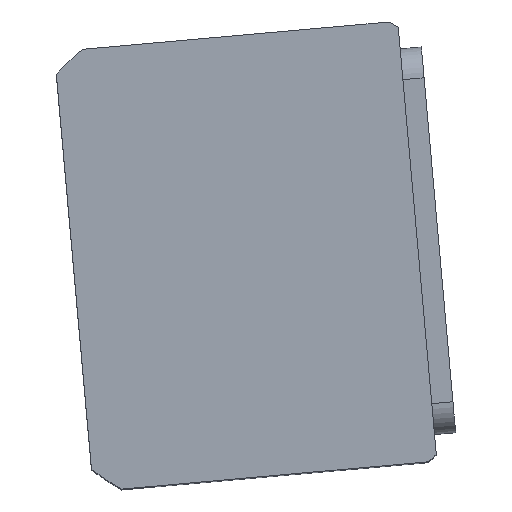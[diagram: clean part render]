
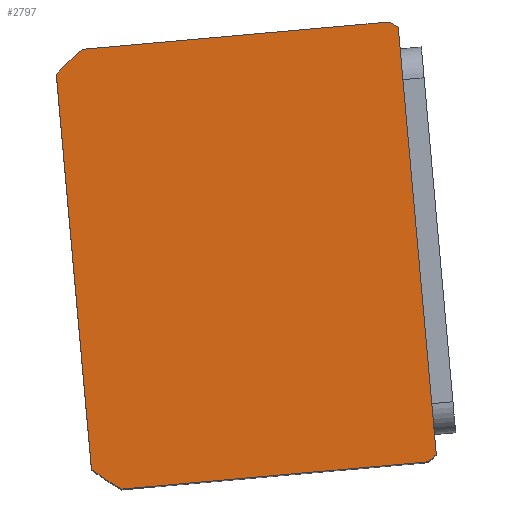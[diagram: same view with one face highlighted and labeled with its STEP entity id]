
A CAD part, top view. The second image highlights one B-rep face of the part: STEP entity #2797.
In plain terms, the highlighted planar face has unit normal (0, 0, 1) as drawn and (0, 0, -1) by its records, which use the part's own axes.
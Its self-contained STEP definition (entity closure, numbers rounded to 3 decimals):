
#589 = CARTESIAN_POINT ( 'NONE',  ( -57., -44.5, 0. ) ) ;
#715 = EDGE_CURVE ( 'NONE', #15470, #19233, #8032, .T. ) ;
#729 = VERTEX_POINT ( 'NONE', #3915 ) ;
#972 = ORIENTED_EDGE ( 'NONE', *, *, #17969, .F. ) ;
#1229 = CARTESIAN_POINT ( 'NONE',  ( -57., -37.265, 0. ) ) ;
#1367 = DIRECTION ( 'NONE',  ( 0., 0., 1. ) ) ;
#1830 = ORIENTED_EDGE ( 'NONE', *, *, #21197, .F. ) ;
#2138 = VECTOR ( 'NONE', #2386, 1000. ) ;
#2386 = DIRECTION ( 'NONE',  ( 1., 0., 0. ) ) ;
#2519 = DIRECTION ( 'NONE',  ( 1., 0., 0. ) ) ;
#2793 = AXIS2_PLACEMENT_3D ( 'NONE', #13537, #2909, #15304 ) ;
#2797 = ADVANCED_FACE ( 'NONE', ( #18814 ), #22454, .F. ) ;
#2909 = DIRECTION ( 'NONE',  ( 0., 0., 1. ) ) ;
#2998 = VERTEX_POINT ( 'NONE', #14290 ) ;
#3809 = CIRCLE ( 'NONE', #22164, 69.5 ) ;
#3810 = VERTEX_POINT ( 'NONE', #8649 ) ;
#3915 = CARTESIAN_POINT ( 'NONE',  ( 57., -37.265, 0. ) ) ;
#4832 = CIRCLE ( 'NONE', #15128, 69.5 ) ;
#5430 = LINE ( 'NONE', #12186, #14299 ) ;
#6307 = EDGE_CURVE ( 'NONE', #10717, #729, #12359, .T. ) ;
#6413 = EDGE_CURVE ( 'NONE', #2998, #21148, #5430, .T. ) ;
#7001 = CARTESIAN_POINT ( 'NONE',  ( 57., 44.5, 0. ) ) ;
#7083 = DIRECTION ( 'NONE',  ( 0., 1., 0. ) ) ;
#7096 = EDGE_LOOP ( 'NONE', ( #1830, #10172, #10946, #972, #13995, #13480, #21754, #11237 ) ) ;
#7104 = AXIS2_PLACEMENT_3D ( 'NONE', #13149, #9724, #2519 ) ;
#7225 = DIRECTION ( 'NONE',  ( -1., 0., 0. ) ) ;
#7773 = CARTESIAN_POINT ( 'NONE',  ( -55.374, 44.5, 0. ) ) ;
#8032 = LINE ( 'NONE', #17933, #12744 ) ;
#8053 = AXIS2_PLACEMENT_3D ( 'NONE', #10200, #22576, #11982 ) ;
#8649 = CARTESIAN_POINT ( 'NONE',  ( 57., 42.265, 0. ) ) ;
#8790 = DIRECTION ( 'NONE',  ( 0., -1., 0. ) ) ;
#8815 = DIRECTION ( 'NONE',  ( 0., 0., 1. ) ) ;
#9724 = DIRECTION ( 'NONE',  ( 0., 0., 1. ) ) ;
#10172 = ORIENTED_EDGE ( 'NONE', *, *, #15082, .F. ) ;
#10200 = CARTESIAN_POINT ( 'NONE',  ( 0., 2.5, 0. ) ) ;
#10717 = VERTEX_POINT ( 'NONE', #18103 ) ;
#10946 = ORIENTED_EDGE ( 'NONE', *, *, #6307, .F. ) ;
#11178 = VECTOR ( 'NONE', #7083, 1000. ) ;
#11237 = ORIENTED_EDGE ( 'NONE', *, *, #715, .F. ) ;
#11729 = LINE ( 'NONE', #7001, #11178 ) ;
#11982 = DIRECTION ( 'NONE',  ( 1., 0., 0. ) ) ;
#11994 = CARTESIAN_POINT ( 'NONE',  ( 0., 2.5, 0. ) ) ;
#12186 = CARTESIAN_POINT ( 'NONE',  ( -57., 44.5, 0. ) ) ;
#12359 = CIRCLE ( 'NONE', #8053, 69.5 ) ;
#12427 = CARTESIAN_POINT ( 'NONE',  ( -51.198, -44.5, 0. ) ) ;
#12744 = VECTOR ( 'NONE', #7225, 1000. ) ;
#13149 = CARTESIAN_POINT ( 'NONE',  ( 0., 0., 0. ) ) ;
#13480 = ORIENTED_EDGE ( 'NONE', *, *, #6413, .F. ) ;
#13537 = CARTESIAN_POINT ( 'NONE',  ( 0., 2.5, 0. ) ) ;
#13788 = DIRECTION ( 'NONE',  ( 1., 0., 0. ) ) ;
#13995 = ORIENTED_EDGE ( 'NONE', *, *, #14380, .F. ) ;
#14290 = CARTESIAN_POINT ( 'NONE',  ( -57., 42.265, 0. ) ) ;
#14299 = VECTOR ( 'NONE', #8790, 1000. ) ;
#14335 = VERTEX_POINT ( 'NONE', #12427 ) ;
#14380 = EDGE_CURVE ( 'NONE', #21148, #14335, #15619, .T. ) ;
#14780 = CARTESIAN_POINT ( 'NONE',  ( 55.374, 44.5, 0. ) ) ;
#15082 = EDGE_CURVE ( 'NONE', #729, #3810, #11729, .T. ) ;
#15128 = AXIS2_PLACEMENT_3D ( 'NONE', #11994, #1367, #13788 ) ;
#15304 = DIRECTION ( 'NONE',  ( 1., 0., 0. ) ) ;
#15470 = VERTEX_POINT ( 'NONE', #14780 ) ;
#15619 = CIRCLE ( 'NONE', #2793, 69.5 ) ;
#15715 = LINE ( 'NONE', #589, #2138 ) ;
#17631 = EDGE_CURVE ( 'NONE', #19233, #2998, #3809, .T. ) ;
#17933 = CARTESIAN_POINT ( 'NONE',  ( -57., 44.5, 0. ) ) ;
#17969 = EDGE_CURVE ( 'NONE', #14335, #10717, #15715, .T. ) ;
#18103 = CARTESIAN_POINT ( 'NONE',  ( 51.198, -44.5, 0. ) ) ;
#18814 = FACE_OUTER_BOUND ( 'NONE', #7096, .T. ) ;
#19233 = VERTEX_POINT ( 'NONE', #7773 ) ;
#19403 = CARTESIAN_POINT ( 'NONE',  ( 0., 2.5, 0. ) ) ;
#21148 = VERTEX_POINT ( 'NONE', #1229 ) ;
#21171 = DIRECTION ( 'NONE',  ( 1., 0., 0. ) ) ;
#21197 = EDGE_CURVE ( 'NONE', #3810, #15470, #4832, .T. ) ;
#21754 = ORIENTED_EDGE ( 'NONE', *, *, #17631, .F. ) ;
#22164 = AXIS2_PLACEMENT_3D ( 'NONE', #19403, #8815, #21171 ) ;
#22454 = PLANE ( 'NONE',  #7104 ) ;
#22576 = DIRECTION ( 'NONE',  ( 0., 0., 1. ) ) ;
